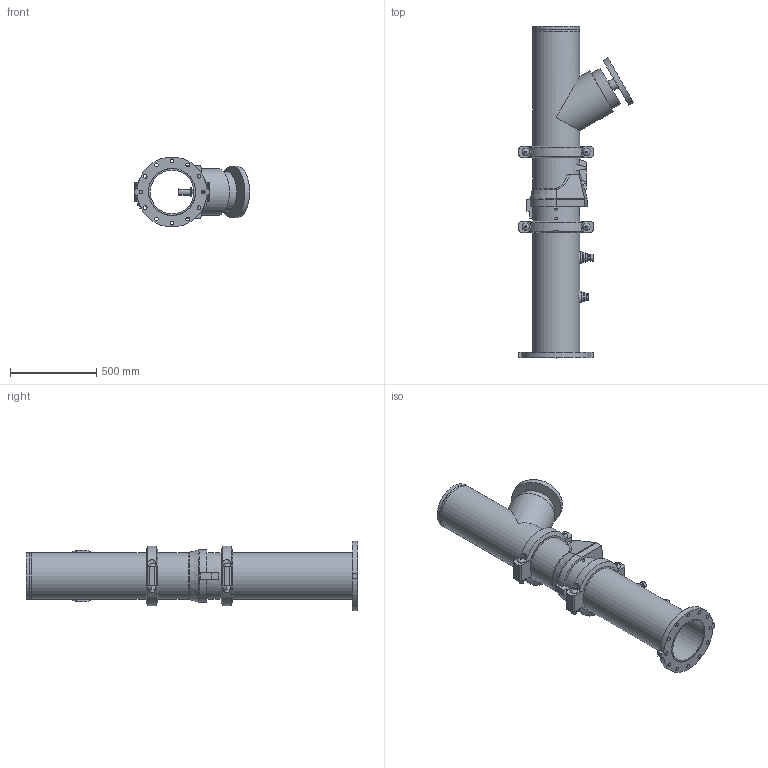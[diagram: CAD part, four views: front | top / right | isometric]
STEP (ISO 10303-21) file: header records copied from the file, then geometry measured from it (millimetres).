
FILE_DESCRIPTION(/* description */ ('VIC DVI PUMP DROP VERT S/383 (OGSxFLG) (S/924-0.75)','CAx-IF Rec.Pracs.---Representation and Presentation of Product Manufacturing Information (PMI)---4.0---2014-10-13'),/* implementation_level */ '2;1');
FILE_NAME(/* name */ 'C:\Users\Public\Documents\Victaulic.Temp\A849\Victaulic_IPS_Vertical DVI_CL 150_Series 383 (OGSxFLG)_924 (0.75)_10.0x10.0 (250x250).stp',/* time_stamp */ '2022-07-25T11:42:18+02:00',/* author */ ('Vjadhav'),/* organization */ ('Victaulic'),/* preprocessor_version */ 'ST-DEVELOPER v18',/* originating_system */ 'Autodesk Inventor 2020',/* authorisation */ '');
FILE_SCHEMA (('AP242_MANAGED_MODEL_BASED_3D_ENGINEERING_MIM_LF { 1 0 10303 442 1 1 4 }'));
Length unit declared in the file: inch
Products named in the file (8): 383_924 (0.75)-10.0x10.0; 741-10.0; Pipe-10.0x10.0; 789-10.0; 779-10.0; 924-10.0x0.75; 923-10.0x0.75; 077-10.0
Assembly tree (8 placements, depth 2):
  383_924 (0.75)-10.0x10.0
    741-10.0
    Pipe-10.0x10.0
    789-10.0
    779-10.0
    924-10.0x0.75
    923-10.0x0.75
    077-10.0  x2
Bounding box: 669.92 x 1928.88 x 406.4 mm (x, y, z)
Volume: 41798791.8 mm3; surface area: 4587874.3 mm2
Topology: 8 solids, 12 shells, 365 faces, 917 edges, 626 vertices
Faces by surface type: plane 218, cylinder 122, cone 13, torus 6, bspline 6
Full cylindrical faces by diameter (mm): 13.716 x4, 21.336 x1, 22.225 x12, 25.4 x8, 26.67 x2, 27.432 x4, 38.608 x1, 45.974 x4, 55.626 x2, 60.96 x1, 76.2 x1, 237.49 x1, 254.508 x3, 264.16 x2, 268.275 x6, 273.05 x16, 299.974 x1
Entity records: 10430 total; most frequent: CARTESIAN_POINT 2062, DIRECTION 1707, ORIENTED_EDGE 1544, EDGE_CURVE 772, AXIS2_PLACEMENT_3D 649, VERTEX_POINT 528, LINE 409, VECTOR 409
